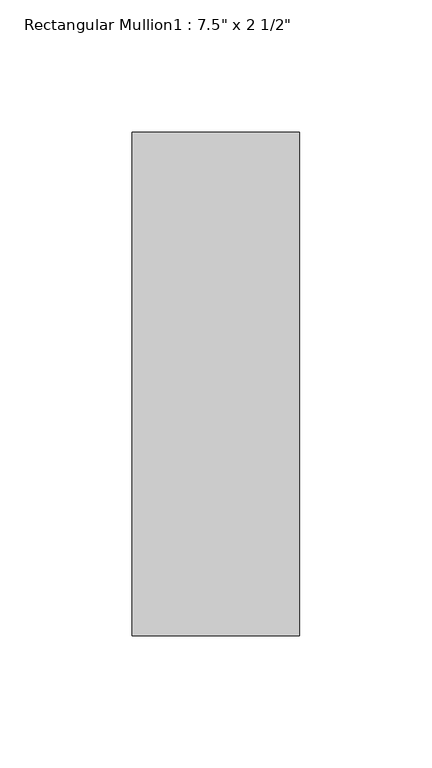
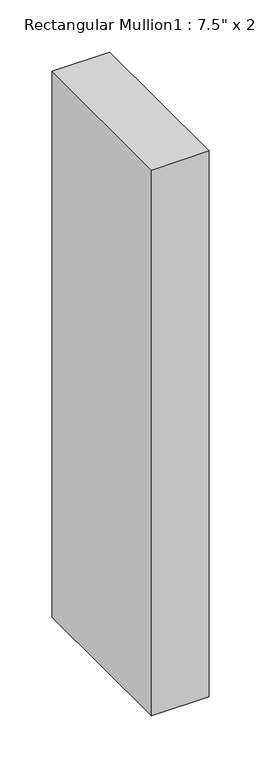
"""IFC4 building model written with IfcOpenShell, lengths in millimetres: member geometry."""

from ifc_helpers import new_model, si_unit, frame, origin, place, context, project, spatial, polyline, outline, extrude, source, transform, mapped, element, save


def member_322fe264(model_context):
    return source(origin(), model_context, "Body", "SweptSolid", [
        extrude(outline(polyline([(-63.5, -165.1), (-63.5, 25.4), (0.0, 25.4), (0.0, -165.1), (-63.5, -165.1)])), frame((0.0, 0.0, -638.1749983), z_axis=(0.0, 0.0, 1.0), x_axis=(1.0, 0.0, 0.0)), (0.0, 0.0, 1.0), 638.1749983),
    ])


if __name__ == "__main__":
    model = new_model("IFC4")
    model_context = context("Model", 3, world=origin())
    ifc_project = project(units=[si_unit("LENGTHUNIT", "METRE", prefix="MILLI")], contexts=[model_context])
    site = spatial("IfcSite", under=ifc_project)
    building = spatial("IfcBuilding", under=site)
    placement = place(None, origin())
    member_shape = member_322fe264(model_context)
    element("IfcMember", 1, ObjectType="Rectangular Mullion1 : 7.5\" x 2 1/2\"", at=placement, inside=building, context=model_context, shape_type="MappedRepresentation", body=[
        mapped(member_shape, transform((0.0, 0.0, 0.0), x_axis=(1.0, 0.0, 0.0), y_axis=(0.0, 1.0, 0.0), z_axis=(0.0, 0.0, 1.0))),
    ])
    save(model, "model.ifc")
